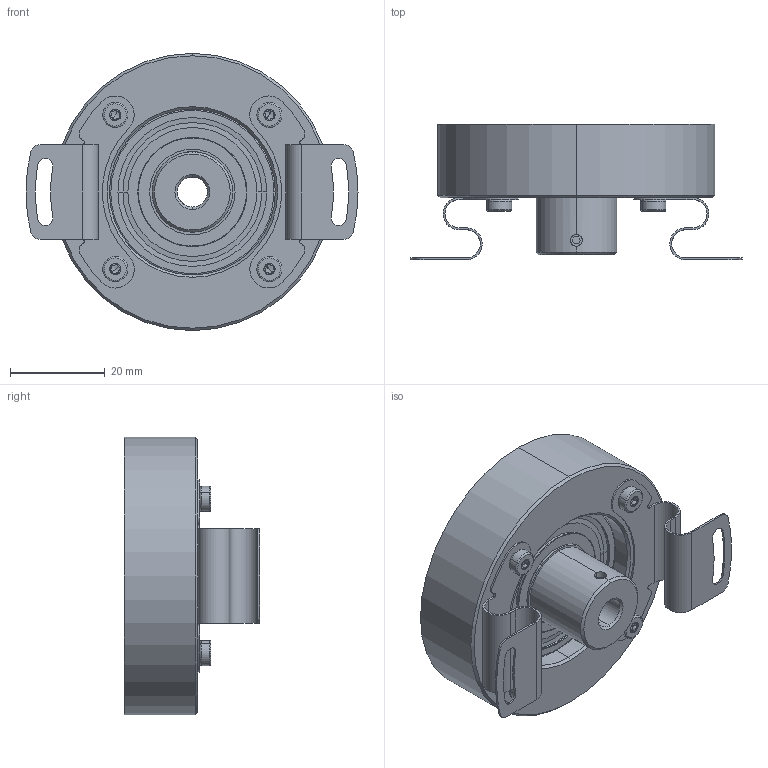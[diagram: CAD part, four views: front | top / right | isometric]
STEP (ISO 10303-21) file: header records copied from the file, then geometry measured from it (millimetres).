
FILE_DESCRIPTION (( 'STEP AP214' ), '1' );
FILE_NAME ('drawing ucd-xrs0-q5b-n.STEP', '2017-05-24T07:38:16', ( '' ), ( '' ), 'SwSTEP 2.0', 'SolidWorks 2017', '' );
FILE_SCHEMA (( 'AUTOMOTIVE_DESIGN' ));
Length unit declared in the file: millimetre
Products named in the file (1): drawing ucd-xrs0-q5b-n
Bounding box: 70.05 x 28.6 x 58.5 mm (x, y, z)
Volume: 38783.9 mm3; surface area: 23032.3 mm2
Topology: 23 solids, 23 shells, 761 faces, 1744 edges, 990 vertices
Faces by surface type: cone 320, cylinder 244, plane 103, bspline 54, torus 40
Entity records: 31354 total; most frequent: CARTESIAN_POINT 5718, DIRECTION 3882, ORIENTED_EDGE 3368, EDGE_CURVE 1684, AXIS2_PLACEMENT_3D 1622, VERTEX_POINT 990, CIRCLE 914, EDGE_LOOP 808
